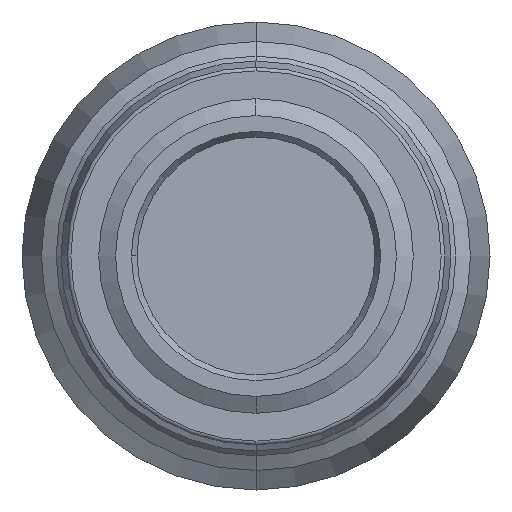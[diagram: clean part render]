
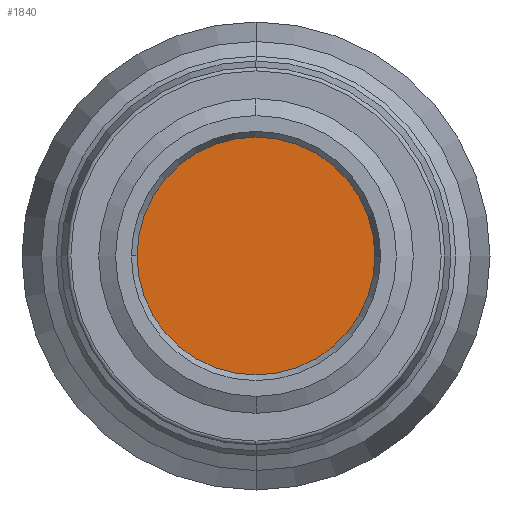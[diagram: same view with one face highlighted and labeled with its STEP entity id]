
A CAD part, front view. The second image highlights one B-rep face of the part: STEP entity #1840.
In plain terms, the highlighted planar face has unit normal (0, -1, 0).
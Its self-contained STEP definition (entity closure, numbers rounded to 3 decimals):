
#14 = CARTESIAN_POINT ( 'NONE',  ( 0., 17., 0. ) ) ;
#148 = DIRECTION ( 'NONE',  ( 0., 0., 1. ) ) ;
#313 = VERTEX_POINT ( 'NONE', #712 ) ;
#369 = ORIENTED_EDGE ( 'NONE', *, *, #3861, .T. ) ;
#712 = CARTESIAN_POINT ( 'NONE',  ( 0., 17., 6.1 ) ) ;
#767 = EDGE_CURVE ( 'NONE', #1567, #313, #1940, .T. ) ;
#794 = DIRECTION ( 'NONE',  ( 0., 0., -1. ) ) ;
#847 = AXIS2_PLACEMENT_3D ( 'NONE', #14, #1930, #794 ) ;
#857 = CIRCLE ( 'NONE', #1949, 6.1 ) ;
#917 = FACE_OUTER_BOUND ( 'NONE', #3444, .T. ) ;
#1253 = DIRECTION ( 'NONE',  ( 0., -1., 0. ) ) ;
#1296 = DIRECTION ( 'NONE',  ( 0., 1., 0. ) ) ;
#1489 = ORIENTED_EDGE ( 'NONE', *, *, #767, .T. ) ;
#1567 = VERTEX_POINT ( 'NONE', #3624 ) ;
#1569 = AXIS2_PLACEMENT_3D ( 'NONE', #3797, #1296, #148 ) ;
#1840 = ADVANCED_FACE ( 'NONE', ( #917 ), #2023, .F. ) ;
#1930 = DIRECTION ( 'NONE',  ( 0., -1., 0. ) ) ;
#1940 = CIRCLE ( 'NONE', #847, 6.1 ) ;
#1949 = AXIS2_PLACEMENT_3D ( 'NONE', #4116, #1253, #4487 ) ;
#2023 = PLANE ( 'NONE',  #1569 ) ;
#3444 = EDGE_LOOP ( 'NONE', ( #1489, #369 ) ) ;
#3624 = CARTESIAN_POINT ( 'NONE',  ( 0., 17., -6.1 ) ) ;
#3797 = CARTESIAN_POINT ( 'NONE',  ( -6.368, 17., 0. ) ) ;
#3861 = EDGE_CURVE ( 'NONE', #313, #1567, #857, .T. ) ;
#4116 = CARTESIAN_POINT ( 'NONE',  ( 0., 17., 0. ) ) ;
#4487 = DIRECTION ( 'NONE',  ( 0., 0., -1. ) ) ;
